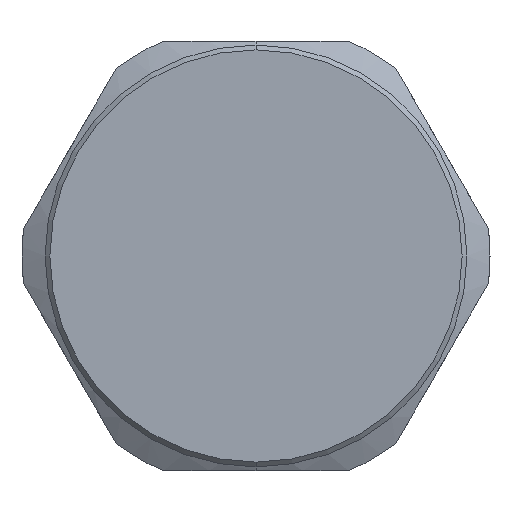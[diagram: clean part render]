
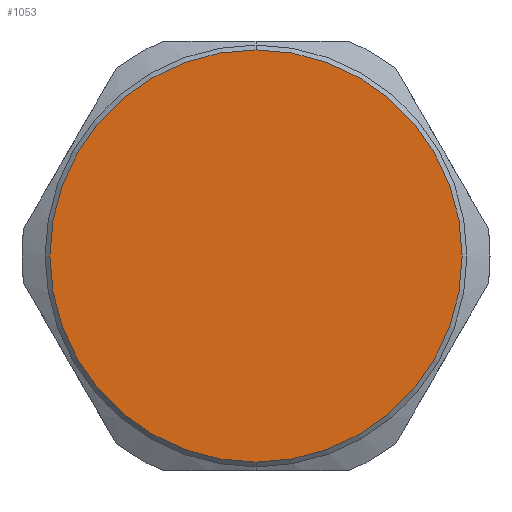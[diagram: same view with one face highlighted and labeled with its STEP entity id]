
A CAD part, front view. The second image highlights one B-rep face of the part: STEP entity #1053.
In plain terms, the highlighted planar face has unit normal (0, -1, 0).
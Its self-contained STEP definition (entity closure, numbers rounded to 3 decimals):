
#46 = AXIS2_PLACEMENT_3D ( 'NONE', #604, #122, #504 ) ;
#66 = ORIENTED_EDGE ( 'NONE', *, *, #72, .F. ) ;
#72 = EDGE_CURVE ( 'NONE', #422, #889, #897, .T. ) ;
#104 = CIRCLE ( 'NONE', #712, 12.95 ) ;
#122 = DIRECTION ( 'NONE',  ( 0., 1., 0. ) ) ;
#127 = DIRECTION ( 'NONE',  ( 0., 0., 1. ) ) ;
#148 = FACE_OUTER_BOUND ( 'NONE', #298, .T. ) ;
#200 = CARTESIAN_POINT ( 'NONE',  ( 0., 0., 0. ) ) ;
#230 = CARTESIAN_POINT ( 'NONE',  ( 0., 0., 12.95 ) ) ;
#233 = CARTESIAN_POINT ( 'NONE',  ( 0., 0., 0. ) ) ;
#298 = EDGE_LOOP ( 'NONE', ( #66, #479 ) ) ;
#377 = PLANE ( 'NONE',  #1054 ) ;
#422 = VERTEX_POINT ( 'NONE', #230 ) ;
#476 = DIRECTION ( 'NONE',  ( 0., 0., 1. ) ) ;
#479 = ORIENTED_EDGE ( 'NONE', *, *, #696, .F. ) ;
#504 = DIRECTION ( 'NONE',  ( 0., 0., 1. ) ) ;
#511 = DIRECTION ( 'NONE',  ( 0., 1., 0. ) ) ;
#604 = CARTESIAN_POINT ( 'NONE',  ( 0., 0., 0. ) ) ;
#680 = CARTESIAN_POINT ( 'NONE',  ( 0., 0., -12.95 ) ) ;
#696 = EDGE_CURVE ( 'NONE', #889, #422, #104, .T. ) ;
#712 = AXIS2_PLACEMENT_3D ( 'NONE', #233, #511, #127 ) ;
#889 = VERTEX_POINT ( 'NONE', #680 ) ;
#897 = CIRCLE ( 'NONE', #46, 12.95 ) ;
#1053 = ADVANCED_FACE ( 'NONE', ( #148 ), #377, .F. ) ;
#1054 = AXIS2_PLACEMENT_3D ( 'NONE', #200, #1069, #476 ) ;
#1069 = DIRECTION ( 'NONE',  ( 0., 1., 0. ) ) ;
